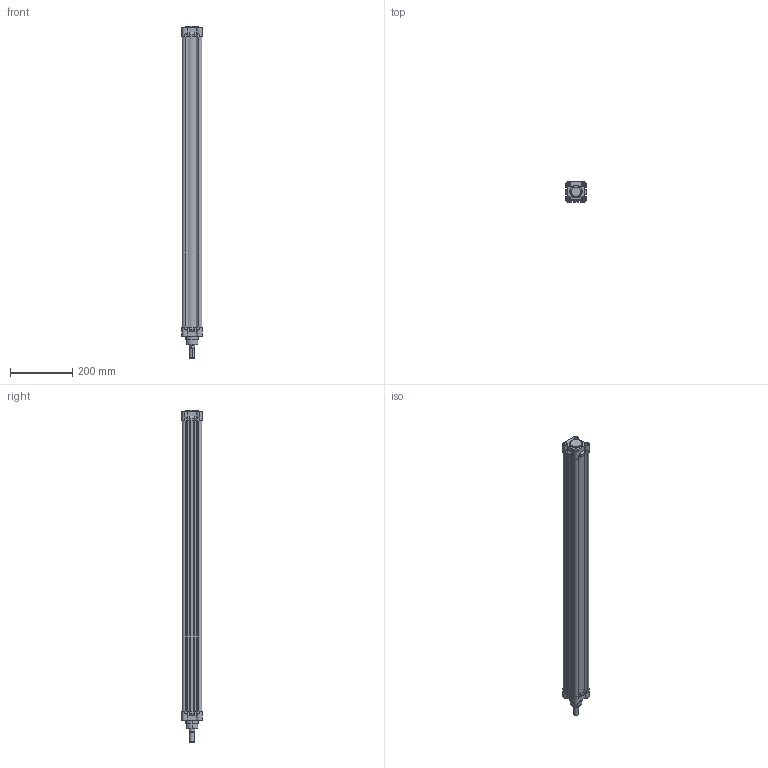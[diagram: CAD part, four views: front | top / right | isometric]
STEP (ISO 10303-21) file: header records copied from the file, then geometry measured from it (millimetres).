
FILE_DESCRIPTION (( 'STEP AP214' ), '1' );
FILE_NAME ('RIC50_900_MY_WEB.STEP', '2020-07-05T17:37:05', ( '' ), ( '' ), 'SwSTEP 2.0', 'SolidWorks 2018', '' );
FILE_SCHEMA (( 'AUTOMOTIVE_DESIGN' ));
Length unit declared in the file: millimetre
Products named in the file (6): RIC50_900_MY_WEB; 50_ON_KAPAK_WEB; 50_ARKA_KAPAK_WEB; 20_MIL_WEB; 50_BORU; 50bogazkecesi
Assembly tree (5 placements, depth 2):
  RIC50_900_MY_WEB
    50_BORU
    50_ARKA_KAPAK_WEB
    50_ON_KAPAK_WEB
    20_MIL_WEB
    50bogazkecesi
Bounding box: 65 x 65 x 1065 mm (x, y, z)
Volume: 1477991.8 mm3; surface area: 604099.8 mm2
Topology: 5 solids, 5 shells, 576 faces, 1465 edges, 952 vertices
Faces by surface type: plane 265, cylinder 172, bspline 83, cone 40, torus 16
Entity records: 23952 total; most frequent: CARTESIAN_POINT 8155, ORIENTED_EDGE 2930, DIRECTION 2697, EDGE_CURVE 1465, VERTEX_POINT 952, AXIS2_PLACEMENT_3D 919, LINE 859, VECTOR 859
